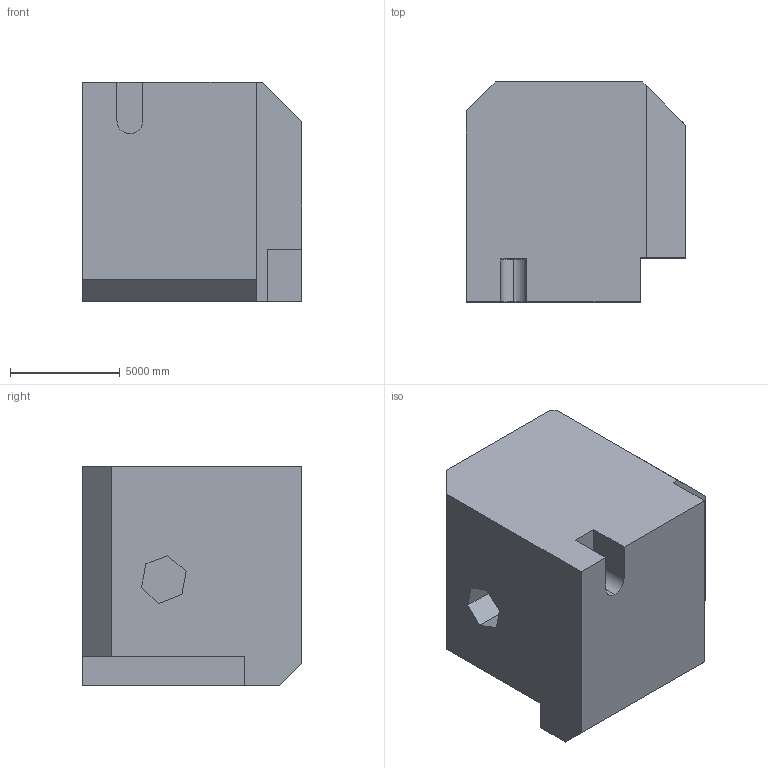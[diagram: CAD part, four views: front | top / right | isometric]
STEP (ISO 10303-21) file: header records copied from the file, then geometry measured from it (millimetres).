
FILE_DESCRIPTION (( 'STEP AP203' ), '1' );
FILE_NAME ('971.STEP', '2022-08-04T16:21:48', ( 'user' ), ( '' ), 'SwSTEP 2.0', 'SolidWorks 2021', '' );
FILE_SCHEMA (( 'CONFIG_CONTROL_DESIGN' ));
Length unit declared in the file: centimetre
Products named in the file (1): 971
Bounding box: 10000 x 10000 x 10000 mm (x, y, z)
Volume: 869078477294.3 mm3; surface area: 614104986.9 mm2
Topology: 1 solids, 1 shells, 37 faces, 102 edges, 68 vertices
Faces by surface type: plane 35, cylinder 2
Entity records: 1237 total; most frequent: CARTESIAN_POINT 208, ORIENTED_EDGE 204, DIRECTION 182, EDGE_CURVE 102, LINE 98, VECTOR 98, VERTEX_POINT 68, AXIS2_PLACEMENT_3D 42
